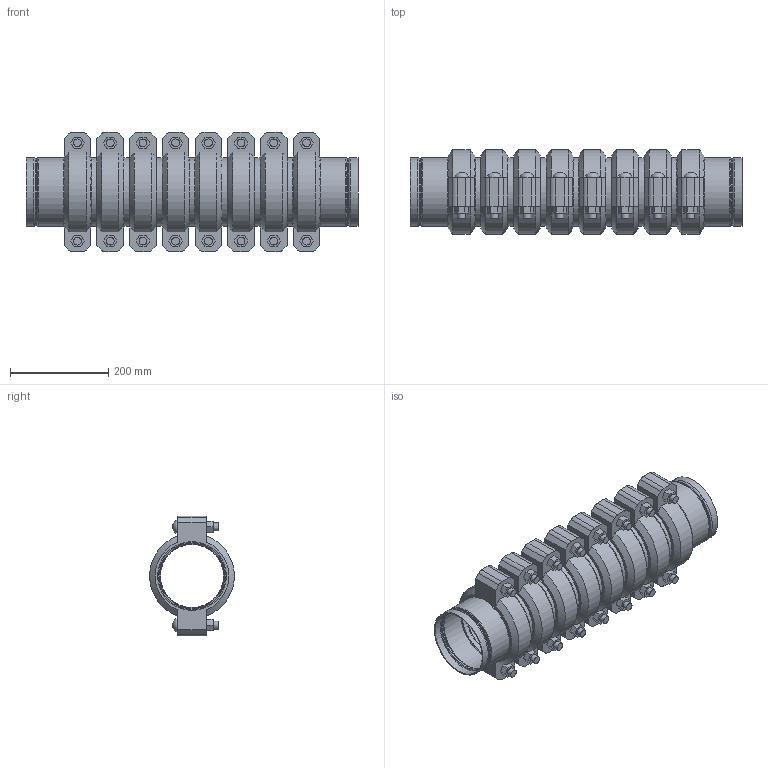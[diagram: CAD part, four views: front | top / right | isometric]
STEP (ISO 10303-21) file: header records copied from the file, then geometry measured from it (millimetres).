
FILE_DESCRIPTION(/* description */ ('VIC STRENGTHIN 100 EXPANSION JOINT 8 COUPLINGS EXPANDED STYLE E155 (ST1)','CAx-IF Rec.Pracs.---Representation and Presentation of Product Manufacturing Information (PMI)---4.0---2014-10-13'),/* implementation_level */ '2;1');
FILE_NAME(/* name */ 'C:\Users\Vjadhav\AppData\Roaming\Autodesk\ApplicationPlugins\Victaulic.Temp\A374\Victaulic_SS-StrengThin 100_Expansion Joint_Expanded_8 Couplings_Style E155 (ST1)_05.0 (139.7) (125).stp',/* time_stamp */ '2021-07-23T19:34:37+05:00',/* author */ ('kkamble'),/* organization */ ('Victaulic'),/* preprocessor_version */ 'ST-DEVELOPER v17.2',/* originating_system */ 'Autodesk Inventor 2019',/* authorisation */ '');
FILE_SCHEMA (('AP242_MANAGED_MODEL_BASED_3D_ENGINEERING_MIM_LF { 1 0 10303 442 1 1 4 }'));
Length unit declared in the file: inch
Products named in the file (4): E155-05.0 (139.7); E494G-05.0 (139.7); Nipple-05.0 (139.7); 075-05.0 (139.7)
Assembly tree (17 placements, depth 2):
  E155-05.0 (139.7)
    E494G-05.0 (139.7)  x2
    Nipple-05.0 (139.7)  x7
    075-05.0 (139.7)  x8
Bounding box: 674.88 x 172.14 x 243.59 mm (x, y, z)
Volume: 6162794.1 mm3; surface area: 1387798.2 mm2
Topology: 17 solids, 33 shells, 608 faces, 1496 edges, 1054 vertices
Faces by surface type: plane 342, cylinder 182, cone 36, torus 32, bspline 16
Full cylindrical faces by diameter (mm): 15.875 x32, 17.424 x16, 128.194 x7, 130.505 x2, 131.47 x2, 133.35 x8, 134.518 x2, 135.484 x16, 135.687 x6, 139.7 x43
Entity records: 3798 total; most frequent: DIRECTION 677, CARTESIAN_POINT 663, ORIENTED_EDGE 548, AXIS2_PLACEMENT_3D 289, EDGE_CURVE 274, VERTEX_POINT 197, CIRCLE 167, EDGE_LOOP 129
